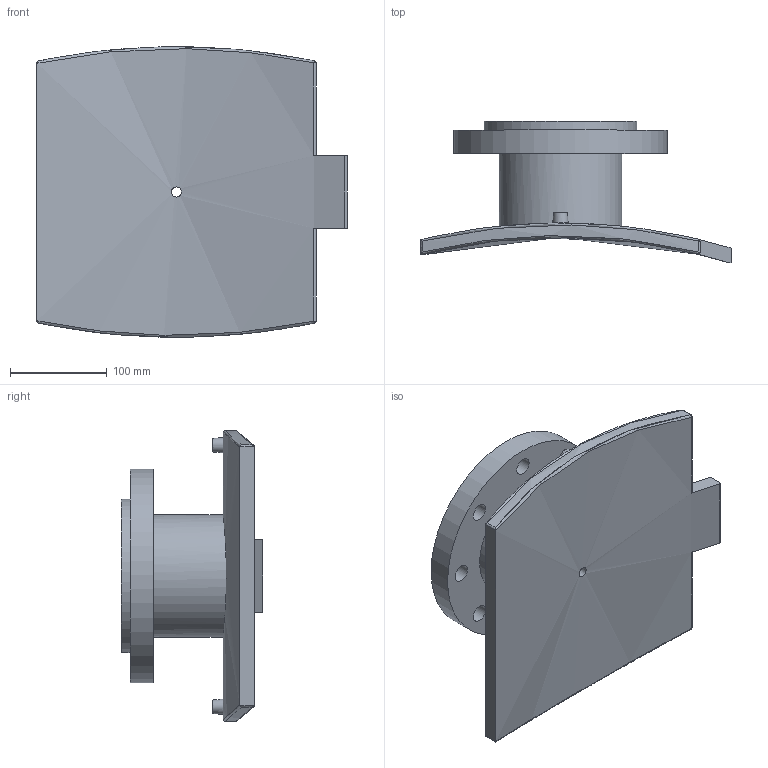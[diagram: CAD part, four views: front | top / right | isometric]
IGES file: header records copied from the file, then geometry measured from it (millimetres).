
Global section: file name: 4959031200100T; native system: Autodesk Inventor 2019; preprocessor: unknown; author: KIM; date: 20240403.210924; units: millimetre
Bounding box: 320 x 145.72 x 299.81 mm (x, y, z)
Volume: 2419293.8 mm3; surface area: 341302.2 mm2
Topology: 1 solids, 1 shells, 58 faces, 151 edges, 118 vertices
Faces by surface type: bspline 58
